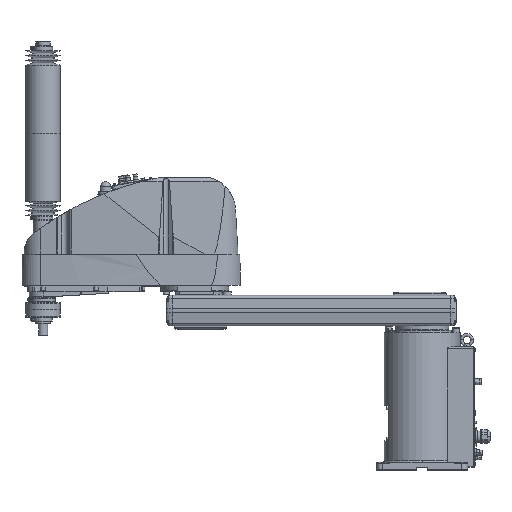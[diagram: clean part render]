
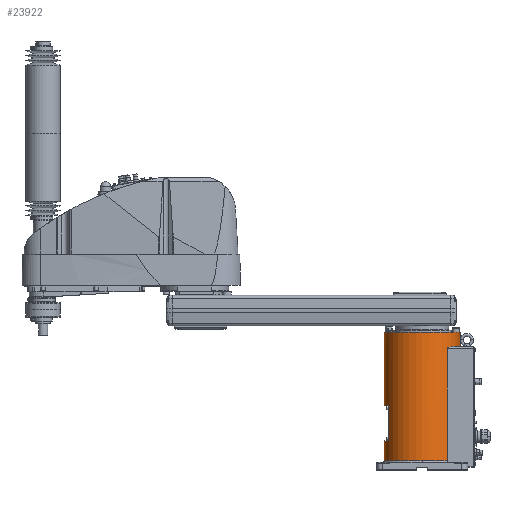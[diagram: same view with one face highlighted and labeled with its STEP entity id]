
A CAD part, top view. The second image highlights one B-rep face of the part: STEP entity #23922.
In plain terms, the highlighted cylindrical face has radius 100 mm (diameter 200 mm), a partial arc.
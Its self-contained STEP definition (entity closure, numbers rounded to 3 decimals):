
#11870 = EDGE_CURVE( '', #13756, #15618, #32345, .T. );
#13530 = EDGE_CURVE( '', #13756, #27534, #34197, .T. );
#13756 = VERTEX_POINT( '', #34447 );
#13984 = VERTEX_POINT( '', #34706 );
#14038 = EDGE_CURVE( '', #27976, #24228, #34763, .T. );
#14118 = EDGE_CURVE( '', #26902, #15618, #34849, .T. );
#15130 = VERTEX_POINT( '', #35977 );
#15376 = EDGE_CURVE( '', #25480, #26826, #36255, .T. );
#15618 = VERTEX_POINT( '', #36518 );
#16202 = VERTEX_POINT( '', #37168 );
#18592 = EDGE_CURVE( '', #26826, #27018, #39837, .T. );
#19070 = EDGE_CURVE( '', #27136, #26902, #40374, .T. );
#19174 = EDGE_CURVE( '', #13984, #25884, #40492, .T. );
#20042 = EDGE_CURVE( '', #27534, #16202, #41438, .T. );
#20986 = EDGE_CURVE( '', #16202, #15130, #42483, .T. );
#21558 = VERTEX_POINT( '', #43116 );
#22448 = EDGE_CURVE( '', #21558, #27136, #44132, .T. );
#23526 = EDGE_CURVE( '', #27018, #21558, #45334, .T. );
#23922 = ADVANCED_FACE( '', ( #45771 ), #45772, .T. );
#24228 = VERTEX_POINT( '', #46106 );
#24290 = EDGE_CURVE( '', #25884, #25480, #46173, .T. );
#25480 = VERTEX_POINT( '', #47491 );
#25884 = VERTEX_POINT( '', #47950 );
#26826 = VERTEX_POINT( '', #49019 );
#26902 = VERTEX_POINT( '', #49106 );
#26964 = EDGE_CURVE( '', #27176, #27976, #49179, .T. );
#27018 = VERTEX_POINT( '', #49238 );
#27136 = VERTEX_POINT( '', #49369 );
#27176 = VERTEX_POINT( '', #49413 );
#27534 = VERTEX_POINT( '', #49806 );
#27976 = VERTEX_POINT( '', #50298 );
#28372 = EDGE_CURVE( '', #15130, #27176, #50735, .T. );
#29034 = EDGE_CURVE( '', #24228, #13984, #51467, .T. );
#32345 = CIRCLE( '', #55839, 100. );
#34197 = LINE( '', #58647, #58648 );
#34447 = CARTESIAN_POINT( '', ( -100., 363., 0. ) );
#34706 = CARTESIAN_POINT( '', ( 66.144, 25., 75. ) );
#34763 = CIRCLE( '', #59564, 100. );
#34849 = LINE( '', #59682, #59683 );
#35977 = CARTESIAN_POINT( '', ( -88., 76.7, 47.497 ) );
#36255 = CIRCLE( '', #61728, 100. );
#36518 = CARTESIAN_POINT( '', ( 100., 363., 0. ) );
#37168 = CARTESIAN_POINT( '', ( -88., 169.7, 47.497 ) );
#39837 = LINE( '', #67015, #67016 );
#40374 = CIRCLE( '', #67799, 100. );
#40492 = LINE( '', #67953, #67954 );
#41438 = CIRCLE( '', #69322, 100. );
#42483 = LINE( '', #70897, #70898 );
#43116 = CARTESIAN_POINT( '', ( 89.303, 326., 45. ) );
#44132 = LINE( '', #73394, #73395 );
#45334 = CIRCLE( '', #75120, 100. );
#45771 = FACE_OUTER_BOUND( '', #75730, .T. );
#45772 = CYLINDRICAL_SURFACE( '', #75731, 100. );
#46106 = CARTESIAN_POINT( '', ( 0., 25., 100. ) );
#46173 = B_SPLINE_CURVE_WITH_KNOTS( '', 3, ( #76309, #76310, #76311, #76312, #76313, #76314, #76315, #76316, #76317, #76318, #76319, #76320, #76321, #76322, #76323, #76324, #76325, #76326 ), .UNSPECIFIED., .F., .F., ( 4, 2, 2, 2, 2, 2, 2, 2, 4 ), ( 14.722, 15.472, 16.222, 16.971, 17.721, 18.842, 19.962, 21.082, 22.202 ), .UNSPECIFIED. );
#47491 = CARTESIAN_POINT( '', ( 70.42, 324., 71. ) );
#47950 = CARTESIAN_POINT( '', ( 66.144, 320., 75. ) );
#49019 = CARTESIAN_POINT( '', ( 75.993, 324., 65. ) );
#49106 = CARTESIAN_POINT( '', ( 100., 324., 0. ) );
#49179 = LINE( '', #80648, #80649 );
#49238 = CARTESIAN_POINT( '', ( 75.993, 326., 65. ) );
#49369 = CARTESIAN_POINT( '', ( 89.303, 324., 45. ) );
#49413 = CARTESIAN_POINT( '', ( -100., 76.7, 0. ) );
#49806 = CARTESIAN_POINT( '', ( -100., 169.7, 0. ) );
#50298 = CARTESIAN_POINT( '', ( -100., 25., 0. ) );
#50735 = CIRCLE( '', #82956, 100. );
#51467 = CIRCLE( '', #84039, 100. );
#55839 = AXIS2_PLACEMENT_3D( '', #88588, #88589, #88590 );
#58647 = CARTESIAN_POINT( '', ( -100., 194., 0. ) );
#58648 = VECTOR( '', #90756, 1. );
#59564 = AXIS2_PLACEMENT_3D( '', #91365, #91366, #91367 );
#59682 = CARTESIAN_POINT( '', ( 100., 194., 0. ) );
#59683 = VECTOR( '', #91451, 1. );
#61728 = AXIS2_PLACEMENT_3D( '', #93080, #93081, #93082 );
#67015 = CARTESIAN_POINT( '', ( 75.993, 325., 65. ) );
#67016 = VECTOR( '', #97149, 1. );
#67799 = AXIS2_PLACEMENT_3D( '', #97801, #97802, #97803 );
#67953 = CARTESIAN_POINT( '', ( 66.144, 172.5, 75. ) );
#67954 = VECTOR( '', #97959, 1. );
#69322 = AXIS2_PLACEMENT_3D( '', #98977, #98978, #98979 );
#70897 = CARTESIAN_POINT( '', ( -88., 123.2, 47.497 ) );
#70898 = VECTOR( '', #100160, 1. );
#73394 = CARTESIAN_POINT( '', ( 89.303, 325., 45. ) );
#73395 = VECTOR( '', #102128, 1. );
#75120 = AXIS2_PLACEMENT_3D( '', #103529, #103530, #103531 );
#75730 = EDGE_LOOP( '', ( #104022, #104023, #104024, #104025, #104026, #104027, #104028, #104029, #104030, #104031, #104032, #104033, #104034, #104035, #104036, #104037 ) );
#75731 = AXIS2_PLACEMENT_3D( '', #104038, #104039, #104040 );
#76309 = CARTESIAN_POINT( '', ( 66.144, 320., 75. ) );
#76310 = CARTESIAN_POINT( '', ( 66.144, 320.25, 75. ) );
#76311 = CARTESIAN_POINT( '', ( 66.171, 320.503, 74.976 ) );
#76312 = CARTESIAN_POINT( '', ( 66.277, 320.995, 74.882 ) );
#76313 = CARTESIAN_POINT( '', ( 66.356, 321.234, 74.812 ) );
#76314 = CARTESIAN_POINT( '', ( 66.555, 321.685, 74.636 ) );
#76315 = CARTESIAN_POINT( '', ( 66.674, 321.897, 74.529 ) );
#76316 = CARTESIAN_POINT( '', ( 66.938, 322.284, 74.292 ) );
#76317 = CARTESIAN_POINT( '', ( 67.082, 322.458, 74.162 ) );
#76318 = CARTESIAN_POINT( '', ( 67.446, 322.842, 73.831 ) );
#76319 = CARTESIAN_POINT( '', ( 67.688, 323.046, 73.61 ) );
#76320 = CARTESIAN_POINT( '', ( 68.203, 323.396, 73.134 ) );
#76321 = CARTESIAN_POINT( '', ( 68.475, 323.543, 72.879 ) );
#76322 = CARTESIAN_POINT( '', ( 69.031, 323.776, 72.352 ) );
#76323 = CARTESIAN_POINT( '', ( 69.316, 323.861, 72.08 ) );
#76324 = CARTESIAN_POINT( '', ( 69.877, 323.974, 71.535 ) );
#76325 = CARTESIAN_POINT( '', ( 70.155, 324., 71.263 ) );
#76326 = CARTESIAN_POINT( '', ( 70.42, 324., 71. ) );
#80648 = CARTESIAN_POINT( '', ( -100., 194., 0. ) );
#80649 = VECTOR( '', #107992, 1. );
#82956 = AXIS2_PLACEMENT_3D( '', #109704, #109705, #109706 );
#84039 = AXIS2_PLACEMENT_3D( '', #110541, #110542, #110543 );
#88588 = CARTESIAN_POINT( '', ( 0., 363., 0. ) );
#88589 = DIRECTION( '', ( 0., 1., 0. ) );
#88590 = DIRECTION( '', ( 1., 0., 0. ) );
#90756 = DIRECTION( '', ( 0., -1., 0. ) );
#91365 = CARTESIAN_POINT( '', ( 0., 25., 0. ) );
#91366 = DIRECTION( '', ( 0., 1., 0. ) );
#91367 = DIRECTION( '', ( 1., 0., 0. ) );
#91451 = DIRECTION( '', ( 0., 1., 0. ) );
#93080 = CARTESIAN_POINT( '', ( 0., 324., 0. ) );
#93081 = DIRECTION( '', ( 0., 1., 0. ) );
#93082 = DIRECTION( '', ( 1., 0., 0. ) );
#97149 = DIRECTION( '', ( 0., 1., 0. ) );
#97801 = CARTESIAN_POINT( '', ( 0., 324., 0. ) );
#97802 = DIRECTION( '', ( 0., 1., 0. ) );
#97803 = DIRECTION( '', ( 1., 0., 0. ) );
#97959 = DIRECTION( '', ( 0., 1., 0. ) );
#98977 = CARTESIAN_POINT( '', ( 0., 169.7, 0. ) );
#98978 = DIRECTION( '', ( 0., 1., 0. ) );
#98979 = DIRECTION( '', ( 1., 0., 0. ) );
#100160 = DIRECTION( '', ( 0., -1., 0. ) );
#102128 = DIRECTION( '', ( 0., -1., 0. ) );
#103529 = CARTESIAN_POINT( '', ( 0., 326., 0. ) );
#103530 = DIRECTION( '', ( 0., 1., 0. ) );
#103531 = DIRECTION( '', ( 1., 0., 0. ) );
#104022 = ORIENTED_EDGE( '', *, *, #14118, .T. );
#104023 = ORIENTED_EDGE( '', *, *, #11870, .F. );
#104024 = ORIENTED_EDGE( '', *, *, #13530, .T. );
#104025 = ORIENTED_EDGE( '', *, *, #20042, .T. );
#104026 = ORIENTED_EDGE( '', *, *, #20986, .T. );
#104027 = ORIENTED_EDGE( '', *, *, #28372, .T. );
#104028 = ORIENTED_EDGE( '', *, *, #26964, .T. );
#104029 = ORIENTED_EDGE( '', *, *, #14038, .T. );
#104030 = ORIENTED_EDGE( '', *, *, #29034, .T. );
#104031 = ORIENTED_EDGE( '', *, *, #19174, .T. );
#104032 = ORIENTED_EDGE( '', *, *, #24290, .T. );
#104033 = ORIENTED_EDGE( '', *, *, #15376, .T. );
#104034 = ORIENTED_EDGE( '', *, *, #18592, .T. );
#104035 = ORIENTED_EDGE( '', *, *, #23526, .T. );
#104036 = ORIENTED_EDGE( '', *, *, #22448, .T. );
#104037 = ORIENTED_EDGE( '', *, *, #19070, .T. );
#104038 = CARTESIAN_POINT( '', ( 0., 194., 0. ) );
#104039 = DIRECTION( '', ( 0., -1., 0. ) );
#104040 = DIRECTION( '', ( 1., 0., 0. ) );
#107992 = DIRECTION( '', ( 0., -1., 0. ) );
#109704 = CARTESIAN_POINT( '', ( 0., 76.7, 0. ) );
#109705 = DIRECTION( '', ( 0., -1., 0. ) );
#109706 = DIRECTION( '', ( 1., 0., 0. ) );
#110541 = CARTESIAN_POINT( '', ( 0., 25., 0. ) );
#110542 = DIRECTION( '', ( 0., 1., 0. ) );
#110543 = DIRECTION( '', ( 1., 0., 0. ) );
